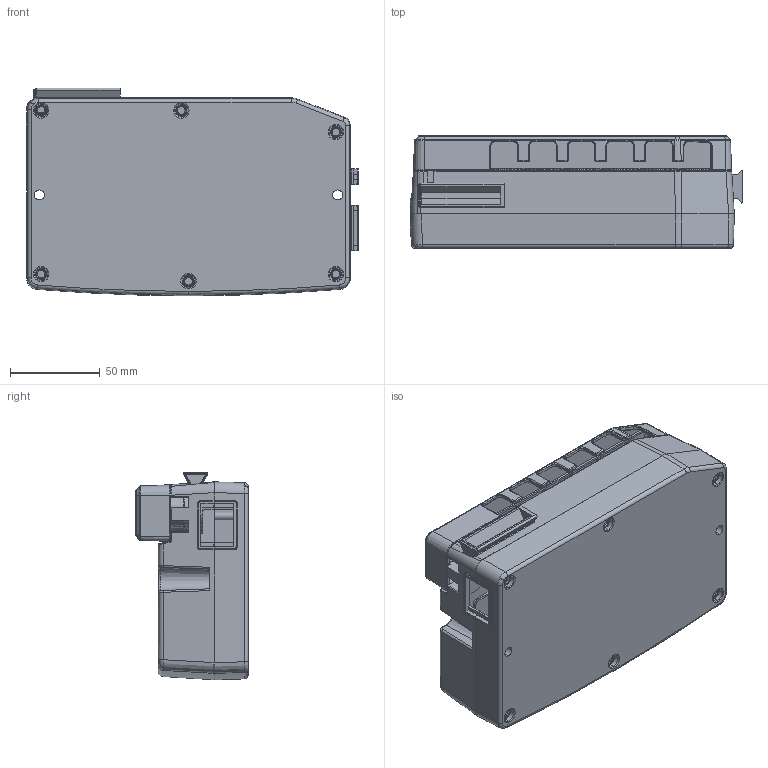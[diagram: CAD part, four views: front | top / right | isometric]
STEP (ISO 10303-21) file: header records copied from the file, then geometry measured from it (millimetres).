
FILE_DESCRIPTION (( 'STEP AP214' ), '1' );
FILE_NAME ('TC17.STEP', '2015-05-20T08:08:59', ( '' ), ( '' ), 'SwSTEP 2.0', 'SolidWorks 2010', '' );
FILE_SCHEMA (( 'AUTOMOTIVE_DESIGN' ));
Length unit declared in the file: millimetre
Products named in the file (1): TC17
Bounding box: 184.7 x 62.5 x 115.41 mm (x, y, z)
Surface area: 110310.3 mm2 (no closed solid volume)
Topology: 0 solids, 7 shells, 731 faces, 2472 edges, 1696 vertices
Faces by surface type: cylinder 245, plane 213, torus 95, cone 80, bspline 71, sphere 27
Entity records: 42448 total; most frequent: CARTESIAN_POINT 13676, DIRECTION 4352, ORIENTED_EDGE 3992, EDGE_CURVE 2460, VERTEX_POINT 1696, AXIS2_PLACEMENT_3D 1561, LINE 1230, VECTOR 1230
